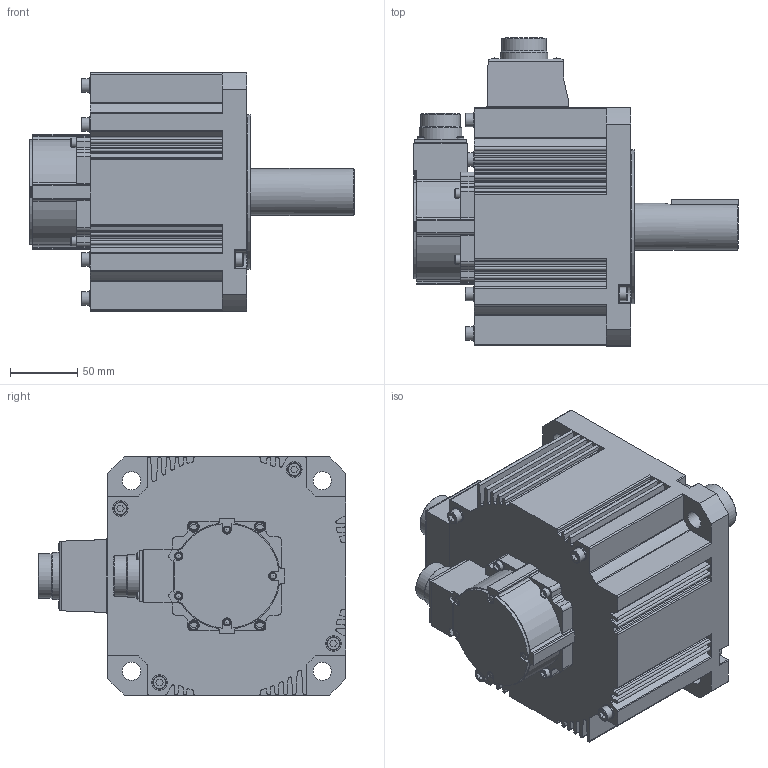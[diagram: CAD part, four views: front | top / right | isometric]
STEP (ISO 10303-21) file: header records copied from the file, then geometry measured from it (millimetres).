
FILE_DESCRIPTION( ( 'STEP AP214' ), '1' );
FILE_NAME( 'p:/temp/worker_6/temp/app_54_0201906101632062161698610e898ce_000000_00_00_000000/format_0/MHMF202L1G6 2JL10.stp', '2019-06-10T14:32:09', ( '' ), ( '' ), ' ', 'PARTsolutions', ' ' );
FILE_SCHEMA( ( 'AUTOMOTIVE_DESIGN { 1 0 10303 214 1 1 1 1 }' ) );
Length unit declared in the file: millimetre
Products named in the file (2): MHMF202L1G6 2JL10; _MHMF202L1G6 _body
Assembly tree (1 placements, depth 2):
  MHMF202L1G6 2JL10
    _MHMF202L1G6 _body
Bounding box: 241 x 228.3 x 176.6 mm (x, y, z)
Volume: 3712208.5 mm3; surface area: 215586.1 mm2
Topology: 1 solids, 1 shells, 608 faces, 1639 edges, 1078 vertices
Faces by surface type: plane 287, cylinder 266, cone 24, torus 18, sphere 13
Full cylindrical faces by diameter (mm): 2.459 x1, 5.6 x5, 7 x4, 8 x4, 10 x8, 11.5 x8, 13.5 x4, 29.75 x1, 31.75 x1, 33 x1, 35 x2, 52 x1, 58 x1, 67 x1, 105 x1, 114.3 x1
Entity records: 23559 total; most frequent: CARTESIAN_POINT 3459, DIRECTION 3259, ORIENTED_EDGE 3022, EDGE_CURVE 1511, AXIS2_PLACEMENT_3D 1173, VERTEX_POINT 1057, LINE 913, VECTOR 913
